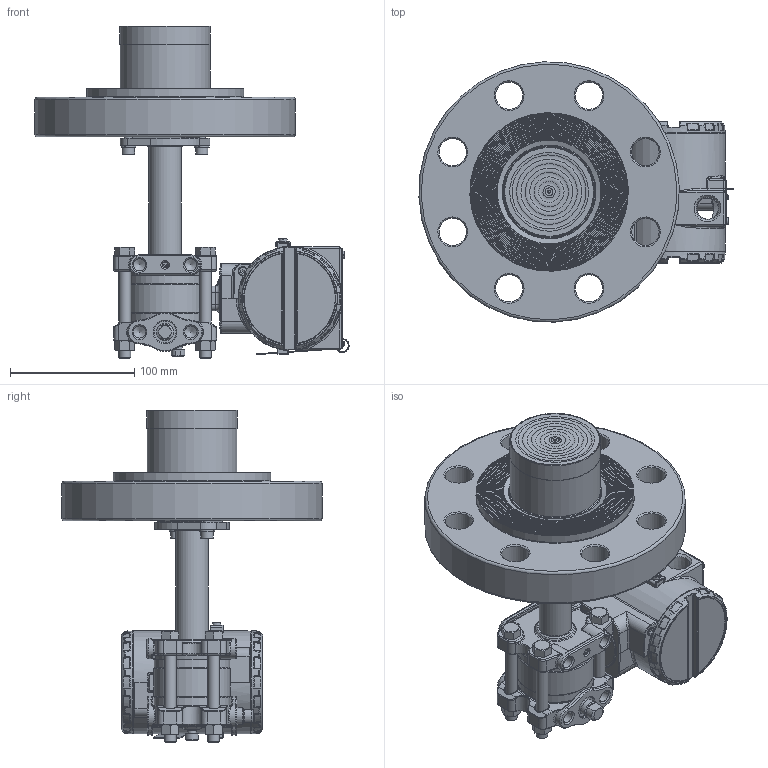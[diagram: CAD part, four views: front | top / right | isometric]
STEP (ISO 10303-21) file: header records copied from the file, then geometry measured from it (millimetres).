
FILE_DESCRIPTION(/* description */ (''),/* implementation_level */ '2;1');
FILE_NAME(/* name */ 'F:\Area\Desenvolvimento_2\Projects\Sensor\projetos\LD30X\montagens 3d - clientes\SELO NIVEL\LD30XL 3-600 RF ext 50 ref 1-4NPT purga acima.stp',/* time_stamp */ '2023-02-10T17:12:12-03:00',/* author */ ('inventor02'),/* organization */ (''),/* preprocessor_version */ 'ST-DEVELOPER v17',/* originating_system */ 'Autodesk Inventor 2019',/* authorisation */ '');
FILE_SCHEMA (('CONFIG_CONTROL_DESIGN'));
Products named in the file (41): LD30XL 3-600 RF ext 50 ref 1-4NPT purga acima; 204-0301-L-3 600 RF ext 50 purga acima; nivel fx3 com baixa diferencial 1-4NPT purga acima; involucro fx0-3 apos a usinagem final; flange diferencial std purga; 101-C-7484-01 flange selo nivel VR; 201-A-0504-tubo união teste 1; bujao 1-4NPT; Sangria; Porca 3-8 x 16 UNC; Paraf. 3-8 x 16 UNC; adaptação tubo x flanges 1-1-2 a 4pol; 101-B-0161-anel cortado do tubo - teste1; 101-B-0162-flange fixação tubo; ANSI B18.3.1M - M6x1 x 16; DIN 127 - A 6; flange 3 600 ext 50; 101-C-0129-12; 096-B-0199-14; 101-B-7701-02 ext 3-50; carcaça vazia com tampas e plaqueta; carcaça LD inox sem letras; Subconjunto plaqueta 300; Plaqueta transmissor; Parafuso da Plaqueta; Rebite da Plaqueta; 096-A-0169-03; 101-A-0502-01; Chapa aterramento externo; ISO 1207 - M4 x 8; DIN 915 - M6 x 10; ANSI B18.3.1M - M4x0,7 x 8; Subconjunto tampa com visor aluminio; tampa pintada; VIDRO DO VISOR; oring 41x1 vidro tampa; Trava do vidro da tampa com visor; trava do vidro VH256; Subconjunto tampa sem visor-aluminio; tampa cega 300 pintada p0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
Assembly tree (51 placements, depth 4):
  LD30XL 3-600 RF ext 50 ref 1-4NPT purga acima
    204-0301-L-3 600 RF ext 50 purga acima
      nivel fx3 com baixa diferencial 1-4NPT purga acima
        involucro fx0-3 apos a usinagem final
        flange diferencial std purga
        101-C-7484-01 flange selo nivel VR
        201-A-0504-tubo união teste 1
        DIN 915 - M6 x 10
        bujao 1-4NPT
        Sangria
        Porca 3-8 x 16 UNC  x4
        Paraf. 3-8 x 16 UNC  x4
      adaptação tubo x flanges 1-1-2 a 4pol
        101-B-0161-anel cortado do tubo - teste1
        101-B-0162-flange fixação tubo
        ANSI B18.3.1M - M6x1 x 16  x2
        DIN 127 - A 6  x2
      flange 3 600 ext 50
        101-C-0129-12
        096-B-0199-14
        101-B-7701-02 ext 3-50
    carcaça vazia com tampas e plaqueta
      carcaça LD inox sem letras
      Subconjunto plaqueta 300
        Plaqueta transmissor
        Parafuso da Plaqueta
        Rebite da Plaqueta
        096-A-0169-03
        101-A-0502-01
      Chapa aterramento externo
      ISO 1207 - M4 x 8
      DIN 915 - M6 x 10
      ANSI B18.3.1M - M4x0,7 x 8  x2
      Subconjunto tampa com visor aluminio
        tampa pintada
        VIDRO DO VISOR
        oring 41x1 vidro tampa
        Trava do vidro da tampa com visor
        trava do vidro VH256
        00034775-0
      Subconjunto tampa sem visor-aluminio
        tampa cega 300 pintada p0
        00034775-0
Bounding box: 253.19 x 209.8 x 267.6 mm (x, y, z)
Volume: 1765416.1 mm3; surface area: 390414.8 mm2
Topology: 43 solids, 43 shells, 2774 faces, 6631 edges, 3931 vertices
Faces by surface type: bspline 667, cylinder 660, plane 578, torus 487, cone 256, sphere 126
Full cylindrical faces by diameter (mm): 2 x4, 2.1 x2, 2.459 x5, 2.5 x1, 2.642 x1, 2.7 x1, 2.8 x1, 3 x4, 3.242 x4, 3.5 x5, 3.571 x1, 4 x5, 4.3 x1, 4.4 x1, 4.917 x4, 5 x1, 5.5 x3, 6 x6, 6.647 x1, 7 x7, 7.087 x2, 7.6 x2, 7.798 x4, 8 x1, 8.7 x2, 9.525 x4, 9.728 x6, 10 x2, 10.5 x8, 10.719 x2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
Entity records: 95612 total; most frequent: CARTESIAN_POINT 34811, DIRECTION 12575, ORIENTED_EDGE 12442, EDGE_CURVE 6221, AXIS2_PLACEMENT_3D 5560, VERTEX_POINT 3737, CIRCLE 3297, EDGE_LOOP 2840
